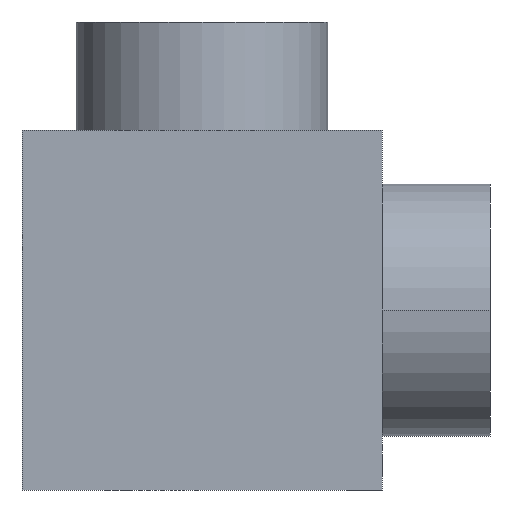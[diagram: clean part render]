
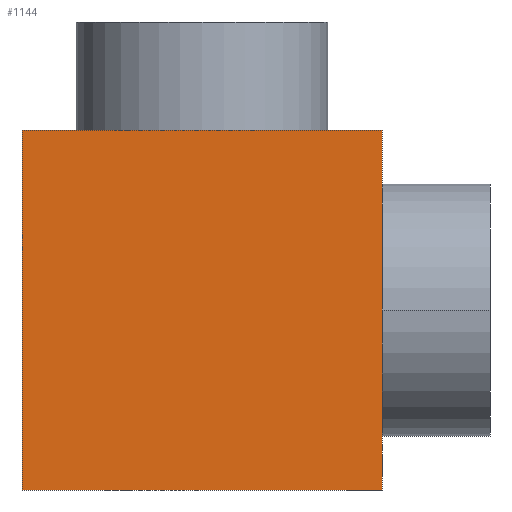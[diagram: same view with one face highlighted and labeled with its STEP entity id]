
A CAD part, front view. The second image highlights one B-rep face of the part: STEP entity #1144.
In plain terms, the highlighted planar face has unit normal (0, -1, 0).
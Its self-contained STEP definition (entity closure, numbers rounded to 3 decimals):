
#27 = DIRECTION ( 'NONE',  ( 0., 1., 0. ) ) ;
#55 = EDGE_CURVE ( 'NONE', #1249, #477, #385, .T. ) ;
#98 = ORIENTED_EDGE ( 'NONE', *, *, #55, .F. ) ;
#113 = LINE ( 'NONE', #711, #1195 ) ;
#150 = FACE_OUTER_BOUND ( 'NONE', #1180, .T. ) ;
#158 = DIRECTION ( 'NONE',  ( 0., 0., 1. ) ) ;
#273 = VECTOR ( 'NONE', #311, 1000. ) ;
#311 = DIRECTION ( 'NONE',  ( 0., 0., -1. ) ) ;
#317 = CARTESIAN_POINT ( 'NONE',  ( 0., 0., 50. ) ) ;
#343 = DIRECTION ( 'NONE',  ( 1., 0., 0. ) ) ;
#385 = LINE ( 'NONE', #859, #1192 ) ;
#393 = PLANE ( 'NONE',  #967 ) ;
#408 = DIRECTION ( 'NONE',  ( 1., 0., 0. ) ) ;
#477 = VERTEX_POINT ( 'NONE', #936 ) ;
#537 = LINE ( 'NONE', #902, #273 ) ;
#544 = ORIENTED_EDGE ( 'NONE', *, *, #1186, .T. ) ;
#671 = CARTESIAN_POINT ( 'NONE',  ( 0., 0., 0. ) ) ;
#672 = CARTESIAN_POINT ( 'NONE',  ( 0., 0., 50. ) ) ;
#711 = CARTESIAN_POINT ( 'NONE',  ( 0., 0., 0. ) ) ;
#777 = VERTEX_POINT ( 'NONE', #671 ) ;
#859 = CARTESIAN_POINT ( 'NONE',  ( 0., 0., 50. ) ) ;
#862 = ORIENTED_EDGE ( 'NONE', *, *, #1255, .F. ) ;
#902 = CARTESIAN_POINT ( 'NONE',  ( 50., 0., 50. ) ) ;
#909 = LINE ( 'NONE', #672, #1435 ) ;
#936 = CARTESIAN_POINT ( 'NONE',  ( 50., 0., 50. ) ) ;
#956 = EDGE_CURVE ( 'NONE', #777, #1092, #113, .T. ) ;
#967 = AXIS2_PLACEMENT_3D ( 'NONE', #1318, #27, #158 ) ;
#1092 = VERTEX_POINT ( 'NONE', #1327 ) ;
#1144 = ADVANCED_FACE ( 'NONE', ( #150 ), #393, .F. ) ;
#1160 = DIRECTION ( 'NONE',  ( 0., 0., -1. ) ) ;
#1180 = EDGE_LOOP ( 'NONE', ( #1340, #862, #98, #544 ) ) ;
#1186 = EDGE_CURVE ( 'NONE', #1249, #777, #909, .T. ) ;
#1192 = VECTOR ( 'NONE', #408, 1000. ) ;
#1195 = VECTOR ( 'NONE', #343, 1000. ) ;
#1249 = VERTEX_POINT ( 'NONE', #317 ) ;
#1255 = EDGE_CURVE ( 'NONE', #477, #1092, #537, .T. ) ;
#1318 = CARTESIAN_POINT ( 'NONE',  ( 0., 0., 50. ) ) ;
#1327 = CARTESIAN_POINT ( 'NONE',  ( 50., 0., 0. ) ) ;
#1340 = ORIENTED_EDGE ( 'NONE', *, *, #956, .T. ) ;
#1435 = VECTOR ( 'NONE', #1160, 1000. ) ;
